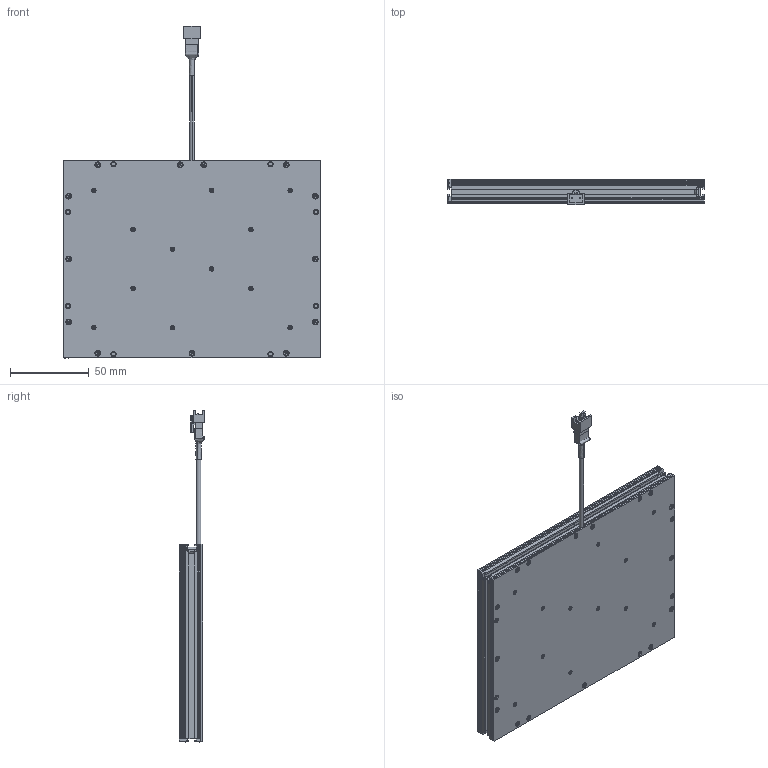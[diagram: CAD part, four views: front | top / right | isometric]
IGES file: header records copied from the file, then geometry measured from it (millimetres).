
Start section: SolidWorks IGES file using analytic representation for surfaces
Global section: file name: C:\Users\user\Downloads\TEMP_STEP\VDF-150113_Drawing_L1182A-A00100.IGS; native system: SolidWorks 2018; preprocessor: SolidWorks 2018; author: user; date: 231221.084241; units: millimetre
Bounding box: 163 x 16.55 x 211.36 mm (x, y, z)
Surface area: 89703.9 mm2 (no closed solid volume)
Topology: 0 solids, 0 shells, 801 faces, 9059 edges, 9059 vertices
Faces by surface type: bspline 527, revolution 274
